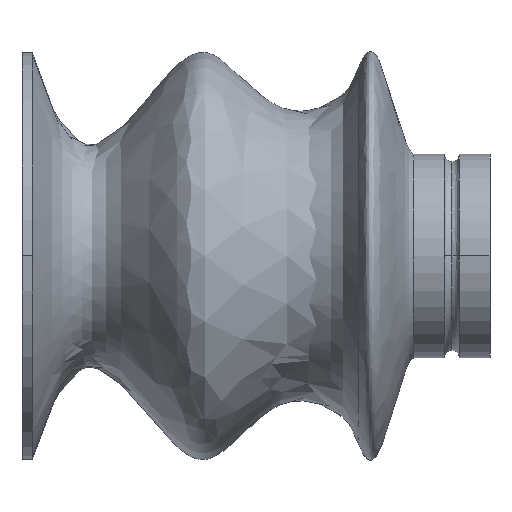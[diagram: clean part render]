
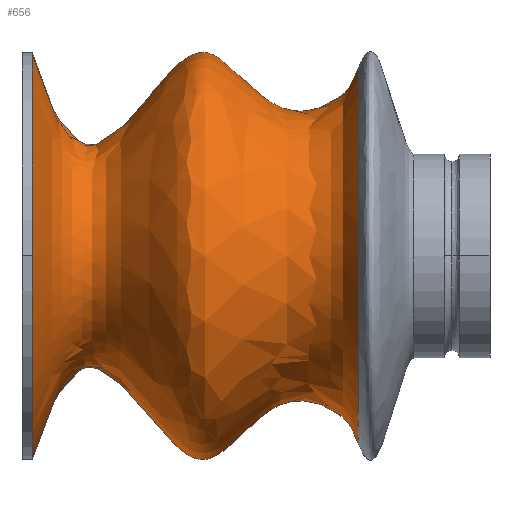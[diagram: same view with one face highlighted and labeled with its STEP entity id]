
A CAD part, top view. The second image highlights one B-rep face of the part: STEP entity #656.
In plain terms, the highlighted free-form (B-spline) face has degree [3, 3] with [6, 4] control points.
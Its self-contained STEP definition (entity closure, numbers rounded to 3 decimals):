
#7 = ORIENTED_EDGE ( 'NONE', *, *, #664, .F. ) ;
#8 = CARTESIAN_POINT ( 'NONE',  ( 33.041, 18.391, 0. ) ) ;
#25 = CARTESIAN_POINT ( 'NONE',  ( 32.41, -15.546, 31.092 ) ) ;
#27 = CARTESIAN_POINT ( 'NONE',  ( 32.41, 15.546, 31.092 ) ) ;
#29 = CARTESIAN_POINT ( 'NONE',  ( 32.41, 15.546, 0. ) ) ;
#30 = CARTESIAN_POINT ( 'NONE',  ( 24.864, -11.433, 0. ) ) ;
#35 = CARTESIAN_POINT ( 'NONE',  ( 24.864, -11.433, 22.865 ) ) ;
#38 = CARTESIAN_POINT ( 'NONE',  ( 24.864, 11.433, 22.865 ) ) ;
#39 = CARTESIAN_POINT ( 'NONE',  ( 24.864, 11.433, 0. ) ) ;
#42 = CARTESIAN_POINT ( 'NONE',  ( 14.932, -29.858, 0. ) ) ;
#56 = CARTESIAN_POINT ( 'NONE',  ( 14.932, -29.858, 59.717 ) ) ;
#63 = CARTESIAN_POINT ( 'NONE',  ( 14.932, 29.858, 59.717 ) ) ;
#68 = CARTESIAN_POINT ( 'NONE',  ( 1., -20., 0. ) ) ;
#71 = CARTESIAN_POINT ( 'NONE',  ( 14.932, 29.858, 0. ) ) ;
#75 = CARTESIAN_POINT ( 'NONE',  ( 7.035, -0.686, 0. ) ) ;
#88 = CARTESIAN_POINT ( 'NONE',  ( 33.041, -18.391, 0. ) ) ;
#91 = CARTESIAN_POINT ( 'NONE',  ( 7.035, 0.686, 0. ) ) ;
#94 = CARTESIAN_POINT ( 'NONE',  ( 33.041, 0., 0. ) ) ;
#97 = CIRCLE ( 'NONE', #139, 20. ) ;
#98 = CARTESIAN_POINT ( 'NONE',  ( 7.035, 0.686, -1.372 ) ) ;
#99 = CARTESIAN_POINT ( 'NONE',  ( 7.035, -0.686, -1.372 ) ) ;
#105 = B_SPLINE_CURVE_WITH_KNOTS ( 'NONE', 3,
 ( #68, #154, #390, #382, #200, #188 ),
 .UNSPECIFIED., .F., .F.,
 ( 4, 1, 1, 4 ),
 ( 0., 0.549, 0.788, 1. ),
 .UNSPECIFIED. ) ;
#110 = CARTESIAN_POINT ( 'NONE',  ( 1., -20., 40. ) ) ;
#120 = AXIS2_PLACEMENT_3D ( 'NONE', #94, #503, #645 ) ;
#123 = EDGE_CURVE ( 'NONE', #477, #773, #105, .T. ) ;
#135 = CARTESIAN_POINT ( 'NONE',  ( 1., 20., 40. ) ) ;
#137 = CARTESIAN_POINT ( 'NONE',  ( 1., 20., 0. ) ) ;
#139 = AXIS2_PLACEMENT_3D ( 'NONE', #603, #683, #598 ) ;
#146 = EDGE_LOOP ( 'NONE', ( #7, #830, #367, #852, #269 ) ) ;
#154 = CARTESIAN_POINT ( 'NONE',  ( 7.035, 0.686, 0. ) ) ;
#170 = VERTEX_POINT ( 'NONE', #459 ) ;
#188 = CARTESIAN_POINT ( 'NONE',  ( 33.041, -18.391, 0. ) ) ;
#200 = CARTESIAN_POINT ( 'NONE',  ( 32.41, -15.546, 0. ) ) ;
#242 = VERTEX_POINT ( 'NONE', #465 ) ;
#269 = ORIENTED_EDGE ( 'NONE', *, *, #123, .T. ) ;
#309 = EDGE_CURVE ( 'NONE', #333, #242, #97, .T. ) ;
#330 = CARTESIAN_POINT ( 'NONE',  ( 32.41, 15.546, 0. ) ) ;
#333 = VERTEX_POINT ( 'NONE', #592 ) ;
#350 = EDGE_CURVE ( 'NONE', #170, #242, #811, .T. ) ;
#361 = CARTESIAN_POINT ( 'NONE',  ( 1., -20., 0. ) ) ;
#367 = ORIENTED_EDGE ( 'NONE', *, *, #309, .F. ) ;
#382 = CARTESIAN_POINT ( 'NONE',  ( 24.864, -11.433, 0. ) ) ;
#390 = CARTESIAN_POINT ( 'NONE',  ( 14.932, -29.858, 0. ) ) ;
#428 = CARTESIAN_POINT ( 'NONE',  ( 1., -20., 0. ) ) ;
#434 = CARTESIAN_POINT ( 'NONE',  ( 1., 0., 0. ) ) ;
#452 = CARTESIAN_POINT ( 'NONE',  ( 1., 20., 0. ) ) ;
#459 = CARTESIAN_POINT ( 'NONE',  ( 33.041, 18.391, 0. ) ) ;
#463 = EDGE_CURVE ( 'NONE', #477, #333, #682, .T. ) ;
#465 = CARTESIAN_POINT ( 'NONE',  ( 1., 20., 0. ) ) ;
#469 = CARTESIAN_POINT ( 'NONE',  ( 33.041, -18.391, 36.783 ) ) ;
#477 = VERTEX_POINT ( 'NONE', #428 ) ;
#503 = DIRECTION ( 'NONE',  ( 1., 0., 0. ) ) ;
#507 = DIRECTION ( 'NONE',  ( -1., 0., 0. ) ) ;
#522 = CARTESIAN_POINT ( 'NONE',  ( 33.041, -18.391, 0. ) ) ;
#544 = AXIS2_PLACEMENT_3D ( 'NONE', #434, #507, #791 ) ;
#568 = CARTESIAN_POINT ( 'NONE',  ( 33.041, 18.391, 0. ) ) ;
#572 = CARTESIAN_POINT ( 'NONE',  ( 32.41, -15.546, 0. ) ) ;
#592 = CARTESIAN_POINT ( 'NONE',  ( 1., 0., 20. ) ) ;
#598 = DIRECTION ( 'NONE',  ( 0., 0., 1. ) ) ;
#603 = CARTESIAN_POINT ( 'NONE',  ( 1., 0., 0. ) ) ;
#617 = CARTESIAN_POINT ( 'NONE',  ( 24.864, 11.433, 0. ) ) ;
#622 = FACE_OUTER_BOUND ( 'NONE', #146, .T. ) ;
#645 = DIRECTION ( 'NONE',  ( 0., 0., -1. ) ) ;
#656 = ADVANCED_FACE ( 'NONE', ( #622 ), #850, .F. ) ;
#664 = EDGE_CURVE ( 'NONE', #170, #773, #754, .T. ) ;
#682 = CIRCLE ( 'NONE', #544, 20. ) ;
#683 = DIRECTION ( 'NONE',  ( -1., 0., 0. ) ) ;
#728 = CARTESIAN_POINT ( 'NONE',  ( 33.041, 18.391, 36.783 ) ) ;
#736 = CARTESIAN_POINT ( 'NONE',  ( 7.035, -0.686, 0. ) ) ;
#754 = CIRCLE ( 'NONE', #120, 18.391 ) ;
#773 = VERTEX_POINT ( 'NONE', #88 ) ;
#791 = DIRECTION ( 'NONE',  ( 0., 0., 1. ) ) ;
#811 = B_SPLINE_CURVE_WITH_KNOTS ( 'NONE', 3,
 ( #8, #330, #617, #857, #75, #452 ),
 .UNSPECIFIED., .F., .F.,
 ( 4, 1, 1, 4 ),
 ( 0., 0.212, 0.451, 1. ),
 .UNSPECIFIED. ) ;
#830 = ORIENTED_EDGE ( 'NONE', *, *, #350, .T. ) ;
#850 =( BOUNDED_SURFACE ( )  B_SPLINE_SURFACE ( 3, 3, ( 
 ( #522, #469, #728, #568 ),
 ( #572, #25, #27, #29 ),
 ( #30, #35, #38, #39 ),
 ( #42, #56, #63, #71 ),
 ( #91, #98, #99, #736 ),
 ( #361, #110, #135, #137 ) ),
 .UNSPECIFIED., .F., .F., .T. ) 
 B_SPLINE_SURFACE_WITH_KNOTS ( ( 4, 1, 1, 4 ),
 ( 4, 4 ),
 ( 0., 0.212, 0.451, 1. ),
 ( 0., 1. ),
 .UNSPECIFIED. ) 
 GEOMETRIC_REPRESENTATION_ITEM ( )  RATIONAL_B_SPLINE_SURFACE ( (
 ( 1., 0.333, 0.333, 1.),
 ( 1., 0.333, 0.333, 1.),
 ( 1., 0.333, 0.333, 1.),
 ( 1., 0.333, 0.333, 1.),
 ( 1., 0.333, 0.333, 1.),
 ( 1., 0.333, 0.333, 1.) ) ) 
 REPRESENTATION_ITEM ( '' )  SURFACE ( )  );
#852 = ORIENTED_EDGE ( 'NONE', *, *, #463, .F. ) ;
#857 = CARTESIAN_POINT ( 'NONE',  ( 14.932, 29.858, 0. ) ) ;
